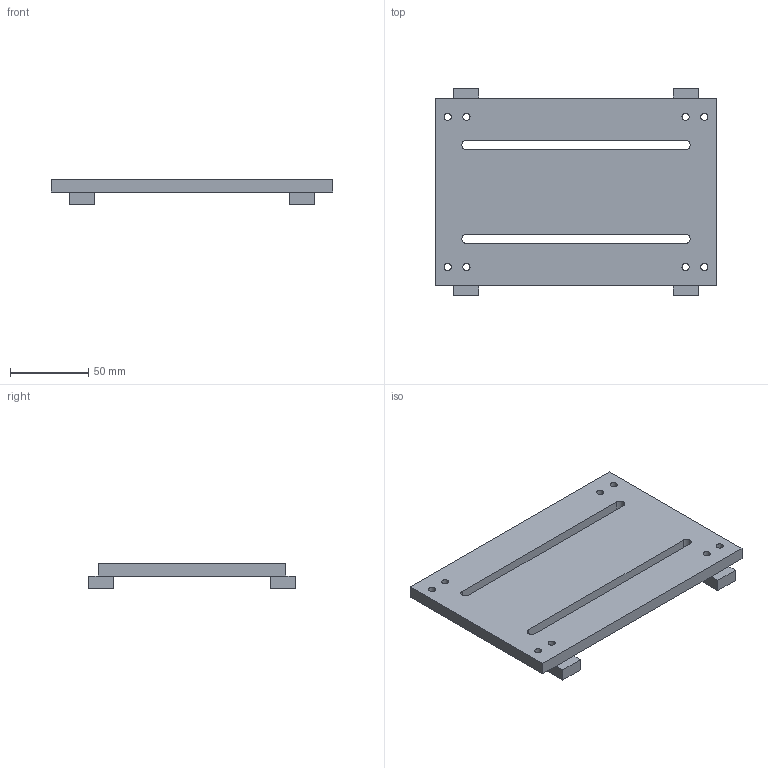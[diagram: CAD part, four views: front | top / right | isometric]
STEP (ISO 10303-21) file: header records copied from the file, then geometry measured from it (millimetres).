
FILE_DESCRIPTION(('Open CASCADE Model'),'2;1');
FILE_NAME('Open CASCADE Shape Model','2026-10-08T14:17:54',('Author'),( 'Open CASCADE'),'Open CASCADE STEP processor 7.9','Open CASCADE 7.9' ,'Unknown');
FILE_SCHEMA(('AUTOMOTIVE_DESIGN { 1 0 10303 214 1 1 1 1 }'));
Length unit declared in the file: millimetre
Products named in the file (1): Open CASCADE STEP translator 7.9 3
Bounding box: 180 x 132 x 16 mm (x, y, z)
Volume: 166036 mm3; surface area: 52787.2 mm2
Topology: 1 solids, 1 shells, 50 faces, 140 edges, 88 vertices
Faces by surface type: plane 38, cylinder 12
Full cylindrical faces by diameter (mm): 4.6 x8
Entity records: 3538 total; most frequent: CARTESIAN_POINT 767, DIRECTION 506, LINE 340, VECTOR 340, ORIENTED_EDGE 280, PCURVE 280, DEFINITIONAL_REPRESENTATION 280, EDGE_CURVE 140
